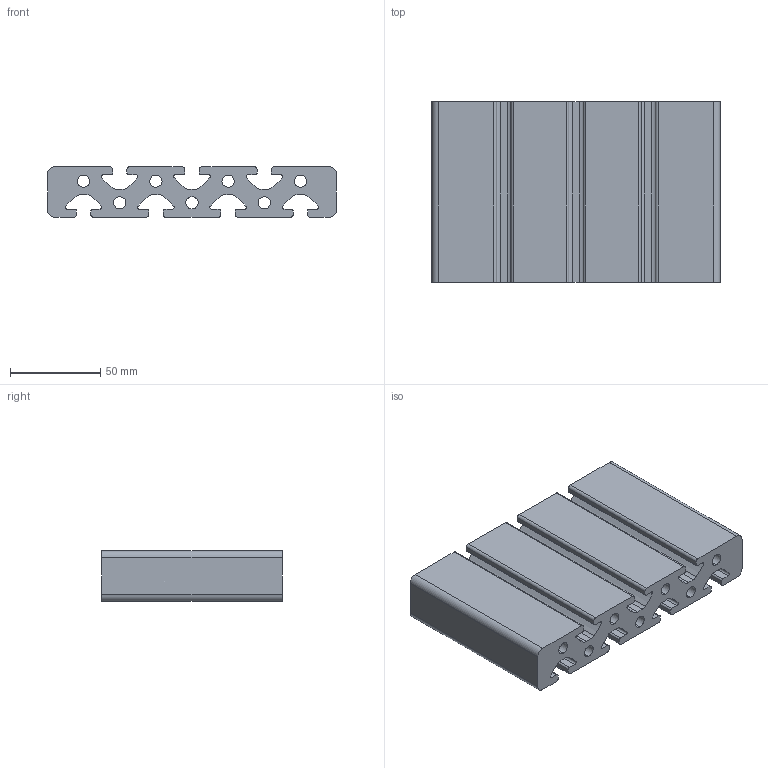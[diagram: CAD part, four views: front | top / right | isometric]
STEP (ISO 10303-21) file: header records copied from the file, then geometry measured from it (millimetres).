
FILE_DESCRIPTION (( 'STEP AP203' ), '1' );
FILE_NAME ('0108P16028S.STEP', '2024-02-28T08:03:10', ( 'Windows-Benutzer' ), ( '' ), 'SwSTEP 2.0', 'SolidWorks 2023', '' );
FILE_SCHEMA (( 'CONFIG_CONTROL_DESIGN' ));
Length unit declared in the file: millimetre
Products named in the file (1): 0108P16028S
Bounding box: 160 x 100 x 28 mm (x, y, z)
Volume: 311131.8 mm3; surface area: 84864.2 mm2
Topology: 1 solids, 1 shells, 136 faces, 402 edges, 268 vertices
Faces by surface type: cylinder 88, plane 48
Entity records: 4727 total; most frequent: DIRECTION 852, CARTESIAN_POINT 807, ORIENTED_EDGE 804, EDGE_CURVE 402, AXIS2_PLACEMENT_3D 313, VERTEX_POINT 268, LINE 226, VECTOR 226
